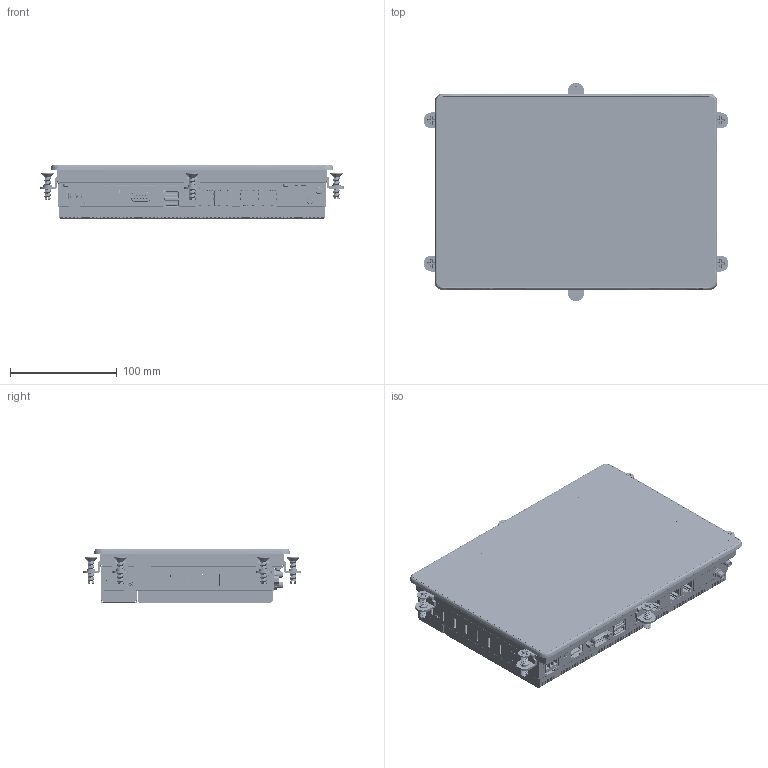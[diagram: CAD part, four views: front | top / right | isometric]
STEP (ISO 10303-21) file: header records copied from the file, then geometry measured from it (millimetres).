
FILE_DESCRIPTION((''),'2;1');
FILE_NAME('NP2A-101','2026-06-02T13:36:51',('gijyu181'),(''),'CREO PARAMETRIC BY PTC INC, 2018050','CREO PARAMETRIC BY PTC INC, 2018050','');
FILE_SCHEMA(('CONFIG_CONTROL_DESIGN','SHAPE_APPEARANCE_LAYERS_GROUPS'));
Products named in the file (1): NP2A-101
Bounding box: 285.6 x 204.6 x 50.4 mm (x, y, z)
Volume: 805832.9 mm3; surface area: 709181.4 mm2
Topology: 43 solids, 87 shells, 27122 faces, 78727 edges, 51929 vertices
Faces by surface type: plane 18385, cylinder 6127, extrusion 1557, cone 466, bspline 300, torus 186, sphere 85, revolution 16
Entity records: 1070793 total; most frequent: CARTESIAN_POINT 230847, ORIENTED_EDGE 156471, DIRECTION 137608, EDGE_CURVE 78665, VECTOR 62060, LINE 60503, VERTEX_POINT 51930, AXIS2_PLACEMENT_3D 37766
